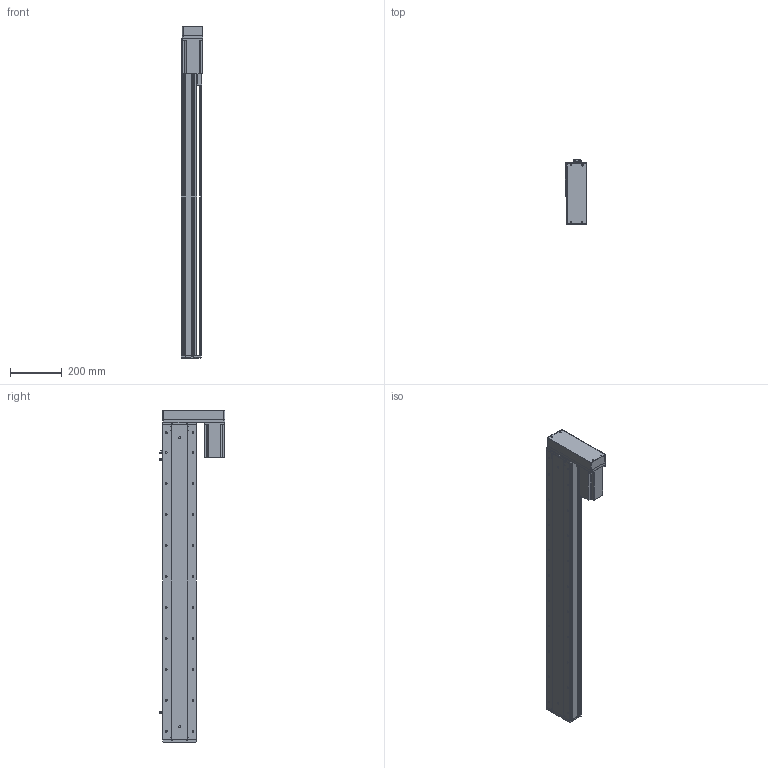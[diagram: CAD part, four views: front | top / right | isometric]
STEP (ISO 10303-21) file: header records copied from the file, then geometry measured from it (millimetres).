
FILE_DESCRIPTION (( 'STEP AP214' ), '1' );
FILE_NAME ('KSD130-P2010-S1000-MR-CM.STEP', '2019-09-17T08:48:08', ( '微软用户' ), ( '微软中国' ), 'SwSTEP 2.0', 'SolidWorks 2014', '' );
FILE_SCHEMA (( 'AUTOMOTIVE_DESIGN' ));
Length unit declared in the file: millimetre
Products named in the file (12): 肣翐M4X35樓6; 130宽模组保护罩左右折; 台达ECMA－C20807AS伺服电机; 130宽模组马达安装板连板左右折丝杆; U倰嫖萇EEㄜSX672; 覜茼え100遵圉猾敕; 130宽盖板半封闭丝杠-1000行程; 130宽滚珠丝杆安装板半封闭-20丝杠; 130宽马达安装板半封闭; 130遵傷裔圉猾敕; 130宽底板半封闭丝杠-1000行程; KSD130-P2010-S1000-MR-CM
Assembly tree (13 placements, depth 2):
  KSD130-P2010-S1000-MR-CM
    130宽底板半封闭丝杠-1000行程
    130遵傷裔圉猾敕
    130宽马达安装板半封闭
    130宽滚珠丝杆安装板半封闭-20丝杠
    130宽盖板半封闭丝杠-1000行程
    覜茼え100遵圉猾敕
    U倰嫖萇EEㄜSX672  x3
    130宽模组马达安装板连板左右折丝杆
    台达ECMA－C20807AS伺服电机
    130宽模组保护罩左右折
    肣翐M4X35樓6
Bounding box: 85 x 253.7 x 1285.5 mm (x, y, z)
Volume: 4765683.4 mm3; surface area: 1329742.3 mm2
Topology: 14 solids, 14 shells, 1451 faces, 4115 edges, 2614 vertices
Faces by surface type: cylinder 703, plane 579, cone 169
Entity records: 48489 total; most frequent: CARTESIAN_POINT 9353, DIRECTION 7067, ORIENTED_EDGE 6858, EDGE_CURVE 3429, AXIS2_PLACEMENT_3D 2572, VERTEX_POINT 2238, VECTOR 1923, LINE 1923
